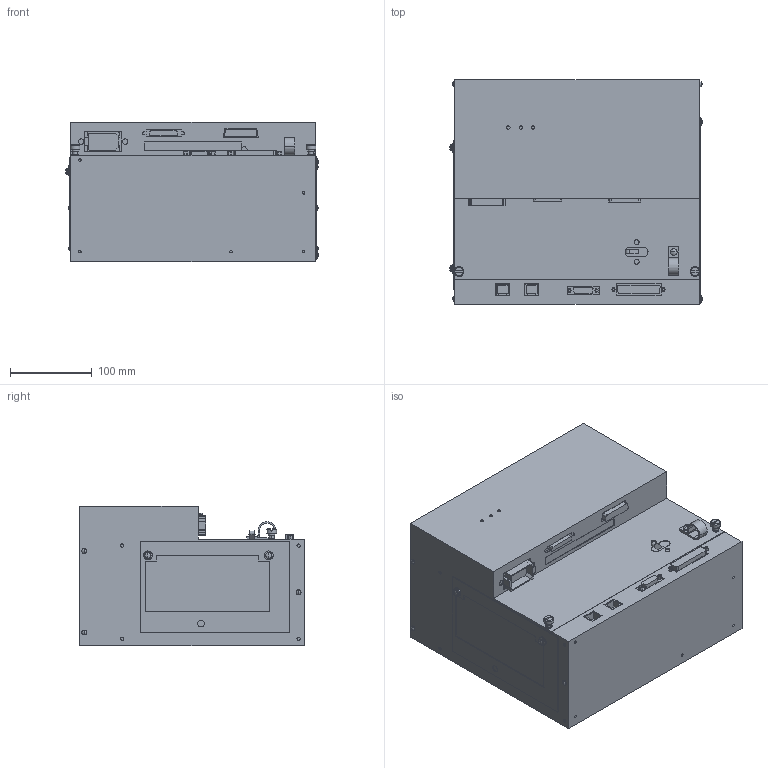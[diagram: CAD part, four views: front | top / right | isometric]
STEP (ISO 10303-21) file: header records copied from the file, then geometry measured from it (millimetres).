
FILE_DESCRIPTION( ( '' ), '1' );
FILE_NAME( '//expscmdclustefs.cadenas.external/client_exchange/iodir/jobs/output/wkb51549566_no0/STEP/RC620DU_2_14b.stp', '2012-11-23T14:16:56', ( '' ), ( '' ), ' ', ' ', ' ' );
FILE_SCHEMA( ( 'automotive_design' ) );
Length unit declared in the file: millimetre
Products named in the file (1): 1
Bounding box: 309.47 x 275 x 170.5 mm (x, y, z)
Volume: 12541564.1 mm3; surface area: 365634.4 mm2
Topology: 1 solids, 1 shells, 490 faces, 1189 edges, 771 vertices
Faces by surface type: plane 276, cylinder 176, torus 22, cone 12, sphere 4
Entity records: 27855 total; most frequent: DIRECTION 2543, CARTESIAN_POINT 2445, STYLED_ITEM 2429, PRESENTATION_STYLE_ASSIGNMENT 2429, COLOUR_RGB 2429, ORIENTED_EDGE 2334, EDGE_CURVE 1167, CURVE_STYLE 1167
